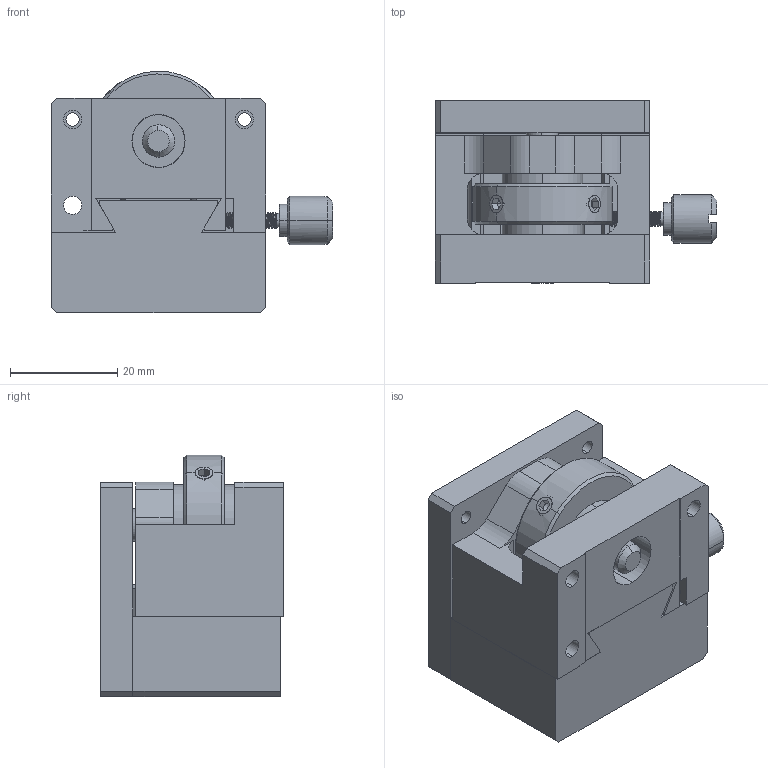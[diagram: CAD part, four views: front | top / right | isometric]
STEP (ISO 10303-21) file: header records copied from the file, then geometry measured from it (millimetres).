
FILE_DESCRIPTION (( 'STEP AP203' ), '1' );
FILE_NAME ('BFDZ40.STEP', '2024-02-26T11:04:50', ( 'China' ), ( 'Microsoft' ), 'SwSTEP 2.0', 'SolidWorks 2024', '' );
FILE_SCHEMA (( 'CONFIG_CONTROL_DESIGN' ));
Length unit declared in the file: millimetre
Products named in the file (1): BFDZ40
Bounding box: 52.47 x 34 x 44.99 mm (x, y, z)
Volume: 47395.7 mm3; surface area: 22700.4 mm2
Topology: 14 solids, 14 shells, 378 faces, 954 edges, 601 vertices
Faces by surface type: plane 169, cylinder 144, cone 52, bspline 7, torus 6
Entity records: 21012 total; most frequent: CARTESIAN_POINT 11861, ORIENTED_EDGE 1876, DIRECTION 1872, EDGE_CURVE 938, AXIS2_PLACEMENT_3D 679, VERTEX_POINT 601, VECTOR 514, LINE 514
